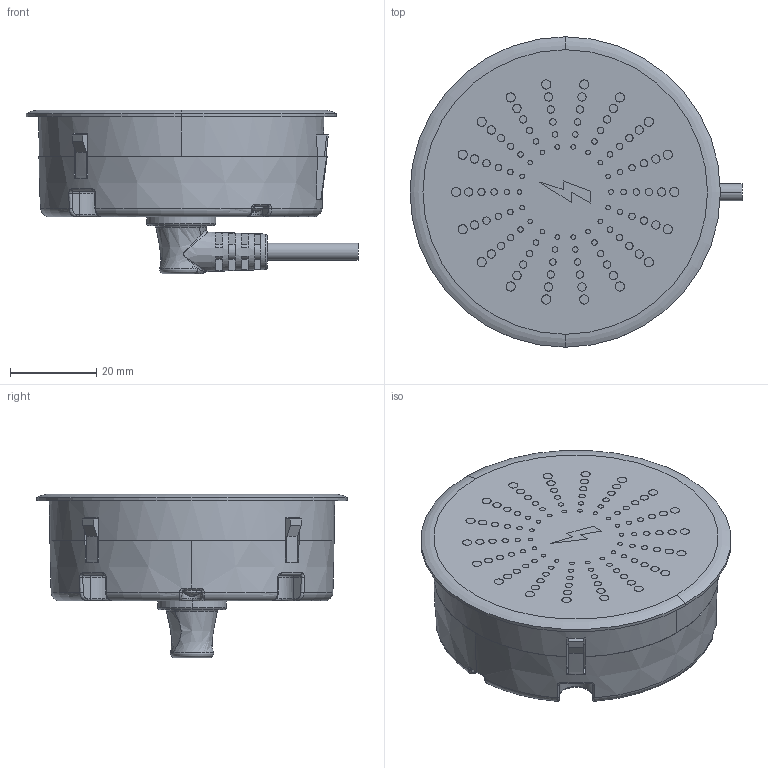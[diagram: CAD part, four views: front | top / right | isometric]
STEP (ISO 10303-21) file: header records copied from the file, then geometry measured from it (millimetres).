
FILE_DESCRIPTION (( 'STEP AP203' ), '1' );
FILE_NAME ('TFA2.STEP', '2017-05-18T04:19:30', ( '' ), ( '' ), 'SwSTEP 2.0', 'SolidWorks 2015', '' );
FILE_SCHEMA (( 'CONFIG_CONTROL_DESIGN' ));
Length unit declared in the file: millimetre
Products named in the file (6): 無線充電上蓋_4; TFA2; THD2-PCB(單位CM)-1; 自攻螺絲-1; TDH2_20130108_Bottom-1; 40510-088-SR-A-1
Assembly tree (7 placements, depth 2):
  TFA2
    THD2-PCB(單位CM)-1
    自攻螺絲-1  x3
    TDH2_20130108_Bottom-1
    40510-088-SR-A-1
    無線充電上蓋_4
Bounding box: 77 x 72 x 37.95 mm (x, y, z)
Volume: 27554.5 mm3; surface area: 42274.4 mm2
Topology: 8 solids, 8 shells, 1391 faces, 3483 edges, 2242 vertices
Faces by surface type: bspline 479, plane 416, cylinder 300, cone 103, torus 85, sphere 8
Entity records: 44536 total; most frequent: CARTESIAN_POINT 16926, ORIENTED_EDGE 6290, DIRECTION 4356, EDGE_CURVE 3145, VERTEX_POINT 2022, AXIS2_PLACEMENT_3D 1565, EDGE_LOOP 1415, ADVANCED_FACE 1269
